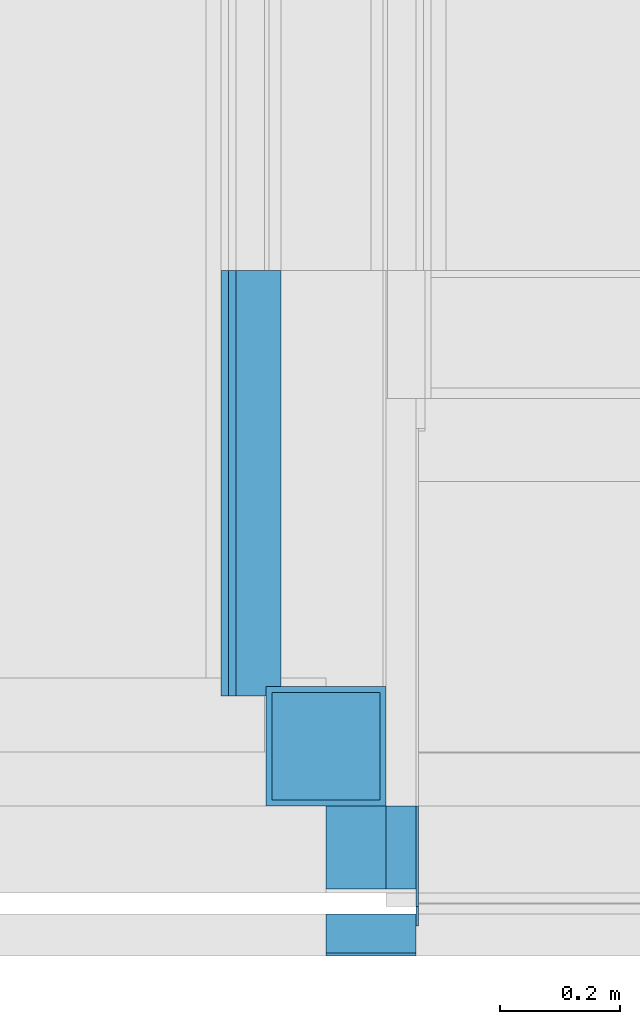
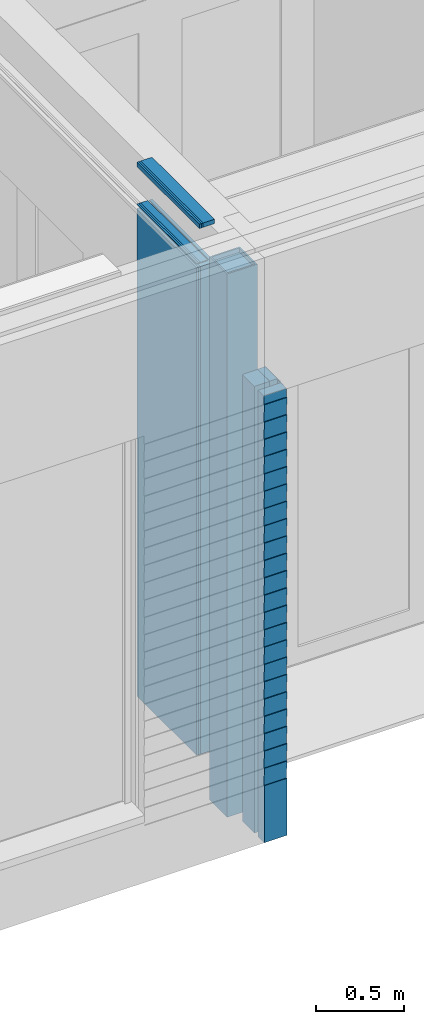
# One storey, part 42 of 165: 9 building element parts, 3 elements without a shape of their own.
"""IFC2X3 building model written with IfcOpenShell, lengths in millimetres."""

from ifc_helpers import new_model, entity, si_unit, converted_unit, derived_unit, money_unit, direction, frame, origin_with_axes, place, context, subcontext, project, spatial, faceted_brep, material, type_object, element, aggregate, save


model = new_model("IFC2X3")

# Units and contexts
model_context = context("Model", 3, precision=0.01, world=origin_with_axes(), true_north=direction((0.0, 1.0)))
body_context = subcontext(model_context, "Body", "Model", "MODEL_VIEW")
ifc_project = project(units=[si_unit("LENGTHUNIT", "METRE", prefix="MILLI"), si_unit("AREAUNIT", "SQUARE_METRE"), si_unit("VOLUMEUNIT", "CUBIC_METRE"), converted_unit("PLANEANGLEUNIT", "DEGREE", entity("IfcPlaneAngleMeasure", 0.0174532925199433), si_unit("PLANEANGLEUNIT", "RADIAN"), dimensions=[0, 0, 0, 0, 0, 0, 0]), money_unit("EUR"), converted_unit("TIMEUNIT", "Year", entity("IfcTimeMeasure", 31556926.0), si_unit("TIMEUNIT", "SECOND"), dimensions=[0, 0, 1, 0, 0, 0, 0]), si_unit("MASSUNIT", "GRAM", prefix="KILO"), si_unit("THERMODYNAMICTEMPERATUREUNIT", "DEGREE_CELSIUS"), si_unit("LUMINOUSINTENSITYUNIT", "LUMEN"), si_unit("ENERGYUNIT", "JOULE", prefix="MEGA"), derived_unit("THERMALCONDUCTANCEUNIT", [(si_unit("POWERUNIT", "WATT"), 1), (si_unit("LENGTHUNIT", "METRE"), -1), (si_unit("THERMODYNAMICTEMPERATUREUNIT", "KELVIN"), -1)]), derived_unit("SPECIFICHEATCAPACITYUNIT", [(si_unit("ENERGYUNIT", "JOULE"), 1), (si_unit("MASSUNIT", "GRAM", prefix="KILO"), -1), (si_unit("THERMODYNAMICTEMPERATUREUNIT", "KELVIN"), -1)]), derived_unit("MASSDENSITYUNIT", [(si_unit("MASSUNIT", "GRAM", prefix="KILO"), 1), (si_unit("VOLUMEUNIT", "CUBIC_METRE"), -1)])], contexts=[model_context])

# Site, building, storey
site_placement = place(None, origin_with_axes())
site = spatial("IfcSite", under=ifc_project, at=site_placement, Name="Site", CompositionType="ELEMENT")
building_placement = place(site_placement, origin_with_axes())
building = spatial("IfcBuilding", under=site, at=building_placement, Name="Naam gebouw", CompositionType="ELEMENT")
storey_placement = place(building_placement, origin_with_axes())
storey = spatial("IfcBuildingStorey", under=building, at=storey_placement, Name="Begane grond", CompositionType="ELEMENT", Elevation=0.0)

# Column, building element parts
column_type_1 = type_object("IfcColumnType", Name="200X200X10 200 x 200", PredefinedType="COLUMN")
column_1_placement = place(storey_placement, frame((8850.0, 99.99999999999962, -425.0000000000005), z_axis=(0.0, 0.0, 1.0), x_axis=(1.0, 0.0, 0.0)))
column_1 = element("IfcColumn", 1, at=column_1_placement, inside=storey, type_object=column_type_1, Name="28_Kolom-x", ObjectType="COLUMN")
ifc_material_1 = material(Name="Beton gewapend C")
building_element_part_1_placement = place(column_1_placement, origin_with_axes())
building_element_part_1 = element("IfcBuildingElementPart", 2, at=building_element_part_1_placement, material=ifc_material_1, Name="Beton gewapend C", context=body_context, shape_type="Brep", body=[
    faceted_brep([(-89.99999999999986, 89.99999999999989, 3705.000002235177), (89.99999999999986, 89.99999999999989, 3705.000002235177), (89.99999999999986, 89.99999999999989, 0.0), (-89.99999999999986, 89.99999999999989, 0.0), (89.99999999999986, -90.00000000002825, 3705.000002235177), (-89.99999999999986, -90.00000000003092, 3705.000002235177), (89.99999999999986, -89.99999999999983, 0.0), (-89.99999999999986, -89.99999999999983, 0.0)], [[[0, 1, 2, 3]], [[4, 1, 0, 5]], [[1, 4, 6, 2]], [[2, 6, 7, 3]], [[5, 0, 3, 7]], [[4, 5, 7, 6]]]),
    faceted_brep([(89.99999999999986, -90.00000000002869, 3730.000002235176), (89.99999999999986, 89.99999999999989, 3730.000002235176), (89.99999999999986, 89.99999999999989, 3735.000000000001), (90.00000000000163, -10.00000000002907, 3735.0), (89.99999999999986, -90.00000000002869, 3735.000000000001), (-89.99999999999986, 89.99999999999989, 3730.000002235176), (-89.99999999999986, -90.00000000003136, 3730.000002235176), (-89.99999999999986, 89.99999999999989, 3735.000000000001), (-89.99999999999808, -10.00000000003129, 3735.0), (-89.99999999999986, -90.00000000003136, 3735.000000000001)], [[[0, 1, 2, 3, 4]], [[5, 1, 0, 6]], [[1, 5, 7, 2]], [[8, 9, 4, 3, 2, 7]], [[6, 0, 4, 9]], [[5, 6, 9, 8, 7]]]),
])
ifc_material_2 = material(Name="Metaal - Staal C")
building_element_part_2_placement = place(column_1_placement, origin_with_axes())
building_element_part_2 = element("IfcBuildingElementPart", 3, at=building_element_part_2_placement, material=ifc_material_2, Name="Metaal - Staal C", context=body_context, shape_type="Brep", body=[
    faceted_brep([(-99.99999999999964, -100.0, 0.0), (99.99999999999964, -100.0, 0.0), (99.99999999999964, -100.0, 3765.000002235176), (-99.99999999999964, -100.0, 3765.000002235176), (-99.99999999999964, 100.0, 0.0), (99.99999999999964, 100.0, 0.0), (-89.99999999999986, -90.00000000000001, 0.0), (89.99999999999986, -90.00000000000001, 0.0), (89.99999999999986, 90.0, 0.0), (-89.99999999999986, 90.0, 0.0), (99.99999999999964, 100.0, 3765.000002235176), (-99.99999999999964, 100.0, 3765.000002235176), (-89.99999999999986, -90.00000000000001, 3765.000002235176), (-89.99999999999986, 90.0, 3765.000002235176), (89.99999999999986, 90.0, 3765.000002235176), (89.99999999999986, -90.00000000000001, 3765.000002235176)], [[[0, 1, 2, 3]], [[0, 4, 5, 1], [6, 7, 8, 9]], [[1, 5, 10, 2]], [[3, 2, 10, 11], [12, 13, 14, 15]], [[4, 0, 3, 11]], [[5, 4, 11, 10]], [[7, 6, 12, 15]], [[8, 7, 15, 14]], [[9, 8, 14, 13]], [[6, 9, 13, 12]]]),
])
aggregate(column_1, [building_element_part_1, building_element_part_2])

# Proxy, building element parts
building_element_proxy_type = type_object("IfcBuildingElementProxyType", Name="22 Metal stud 100 voorzetwand 100", PredefinedType="NOTDEFINED")
proxy_placement = place(storey_placement, frame((8675.0, 893.9999999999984, -100.0), z_axis=(0.0, 0.0, 1.0), x_axis=(0.0, -1.0, 0.0)))
proxy = element("IfcBuildingElementProxy", 4, at=proxy_placement, inside=storey, type_object=building_element_proxy_type, Name="_Wand-x")
ifc_material_3 = material(Name="ALG - LICHTE SCHEIDINGSWAND")
building_element_part_3_placement = place(proxy_placement, origin_with_axes())
building_element_part_3 = element("IfcBuildingElementPart", 5, at=building_element_part_3_placement, material=ifc_material_3, Name="ALG - LICHTE SCHEIDINGSWAND", context=body_context, shape_type="Brep", body=[
    faceted_brep([(679.9999999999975, 72.00000000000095, 3410.0), (0.0, 72.00000000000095, 3410.0), (0.0, 25.00000000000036, 3410.0), (679.9999999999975, 25.00000000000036, 3410.0), (0.0, 72.00000000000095, 3405.000002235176), (679.9999999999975, 72.00000000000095, 3405.000002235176), (0.0, 25.00000000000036, 3405.000002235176), (679.9999999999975, 25.00000000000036, 3405.000002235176)], [[[0, 1, 2, 3]], [[4, 1, 0, 5]], [[4, 6, 2, 1]], [[6, 7, 3, 2]], [[5, 0, 3, 7]], [[6, 4, 5, 7]]]),
    faceted_brep([(709.9999999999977, 99.99999999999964, 3670.0), (0.0, 99.99999999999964, 3670.0), (0.0, 99.99999999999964, 3700.0), (709.9999999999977, 99.99999999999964, 3700.0), (0.0, 25.00000000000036, 3670.0), (709.9999999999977, 24.99999999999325, 3670.0), (0.0, 25.00000000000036, 3700.0), (709.9999999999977, 25.00000000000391, 3700.0)], [[[0, 1, 2, 3]], [[4, 1, 0, 5]], [[2, 1, 4, 6]], [[2, 6, 7, 3]], [[7, 5, 0, 3]], [[6, 4, 5, 7]]]),
    faceted_brep([(0.0, 25.00000000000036, 3380.000002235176), (0.0, 99.99999999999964, 3380.000002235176), (0.0, 99.99999999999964, 0.0), (0.0, 25.00000000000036, 0.0), (679.9999999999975, 99.99999999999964, 3380.000002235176), (679.9999999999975, 25.00000000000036, 3380.000002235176), (679.999999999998, 99.99999999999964, 0.0), (679.999999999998, 25.00000000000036, 0.0)], [[[0, 1, 2, 3]], [[4, 1, 0, 5]], [[1, 4, 6, 2]], [[3, 2, 6, 7]], [[5, 0, 3, 7]], [[4, 5, 7, 6]]]),
    faceted_brep([(679.9999999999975, 99.99999999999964, 3405.000002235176), (0.0, 99.99999999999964, 3405.000002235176), (0.0, 99.99999999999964, 3410.0), (679.9999999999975, 99.99999999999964, 3410.0), (0.0, 80.00000000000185, 3405.000002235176), (679.9999999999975, 80.00000000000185, 3405.000002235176), (0.0, 80.00000000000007, 3410.0), (679.9999999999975, 80.00000000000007, 3410.0)], [[[0, 1, 2, 3]], [[4, 1, 0, 5]], [[4, 6, 2, 1]], [[6, 7, 3, 2]], [[5, 0, 3, 7]], [[7, 6, 4, 5]]]),
])
ifc_material_4 = material(Name="Gipsplaat")
building_element_part_4_placement = place(proxy_placement, origin_with_axes())
building_element_part_4 = element("IfcBuildingElementPart", 6, at=building_element_part_4_placement, material=ifc_material_4, Name="Gipsplaat", context=body_context, shape_type="Brep", body=[
    faceted_brep([(0.0, 12.50000000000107, 3380.000002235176), (0.0, 25.00000000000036, 3380.000002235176), (0.0, 25.00000000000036, 0.0), (0.0, 12.49999999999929, 0.0), (679.9999999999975, 25.00000000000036, 3380.000002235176), (679.9999999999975, 12.49999999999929, 3380.000002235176), (679.999999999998, 25.00000000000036, 0.0), (679.999999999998, 12.49999999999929, 0.0)], [[[0, 1, 2, 3]], [[4, 1, 0, 5]], [[1, 4, 6, 2]], [[3, 2, 6, 7]], [[5, 0, 3, 7]], [[4, 5, 7, 6]]]),
    faceted_brep([(709.9999999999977, 25.00000000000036, 3670.0), (0.0, 25.00000000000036, 3670.0), (0.0, 25.00000000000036, 3700.0), (709.9999999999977, 25.00000000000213, 3700.0), (0.0, 12.50000000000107, 3670.0), (709.9999999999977, 12.49999999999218, 3670.0), (0.0, 12.50000000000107, 3700.0), (709.9999999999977, 12.50000000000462, 3700.0)], [[[0, 1, 2, 3]], [[4, 1, 0, 5]], [[2, 1, 4, 6]], [[2, 6, 7, 3]], [[7, 5, 0, 3]], [[6, 4, 5, 7]]]),
    faceted_brep([(679.9999999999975, 25.00000000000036, 3405.000002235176), (0.0, 25.00000000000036, 3405.000002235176), (0.0, 25.00000000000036, 3410.0), (679.9999999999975, 25.00000000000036, 3410.0), (0.0, 12.50000000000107, 3405.000002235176), (679.9999999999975, 12.49999999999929, 3405.000002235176), (0.0, 12.50000000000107, 3410.0), (679.9999999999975, 12.49999999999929, 3410.0)], [[[0, 1, 2, 3]], [[4, 1, 0, 5]], [[1, 4, 6, 2]], [[7, 3, 2, 6]], [[5, 0, 3, 7]], [[4, 5, 7, 6]]]),
])
building_element_part_5_placement = place(proxy_placement, origin_with_axes())
building_element_part_5 = element("IfcBuildingElementPart", 7, at=building_element_part_5_placement, material=ifc_material_4, Name="Gipsplaat", context=body_context, shape_type="Brep", body=[
    faceted_brep([(0.0, 0.0, 3380.000002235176), (0.0, 12.50000000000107, 3380.000002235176), (0.0, 12.49999999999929, 0.0), (0.0, 0.0, 0.0), (679.9999999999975, 12.49999999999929, 3380.000002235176), (679.9999999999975, 0.0, 3380.000002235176), (679.999999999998, 12.49999999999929, 0.0), (679.999999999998, 0.0, 0.0)], [[[0, 1, 2, 3]], [[4, 1, 0, 5]], [[1, 4, 6, 2]], [[3, 2, 6, 7]], [[5, 0, 3, 7]], [[4, 5, 7, 6]]]),
    faceted_brep([(709.9999999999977, 12.49999999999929, 3670.0), (0.0, 12.50000000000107, 3670.0), (0.0, 12.50000000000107, 3700.0), (709.9999999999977, 12.50000000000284, 3700.0), (0.0, 0.0, 3670.0), (709.9999999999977, 0.0, 3670.0), (0.0, 0.0, 3700.0), (709.9999999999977, 0.0, 3700.0)], [[[0, 1, 2, 3]], [[4, 1, 0, 5]], [[2, 1, 4, 6]], [[2, 6, 7, 3]], [[7, 5, 0, 3]], [[6, 4, 5, 7]]]),
    faceted_brep([(679.9999999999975, 12.49999999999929, 3405.000002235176), (0.0, 12.50000000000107, 3405.000002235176), (0.0, 12.50000000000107, 3410.0), (679.9999999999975, 12.49999999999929, 3410.0), (0.0, 0.0, 3405.000002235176), (679.9999999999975, 0.0, 3405.000002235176), (0.0, 0.0, 3410.0), (679.9999999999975, 0.0, 3410.0)], [[[0, 1, 2, 3]], [[4, 1, 0, 5]], [[1, 4, 6, 2]], [[7, 3, 2, 6]], [[5, 0, 3, 7]], [[4, 5, 7, 6]]]),
])
aggregate(proxy, [building_element_part_3, building_element_part_4, building_element_part_5])

# Column, building element parts
column_type_2 = type_object("IfcColumnType", Name="21 Hoekaansluiting staalplaat 154 x 250", PredefinedType="COLUMN")
column_2_placement = place(storey_placement, frame((8950.0, 0.0, -484.9999999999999), z_axis=(0.0, 0.0, 1.0), x_axis=(1.0, 0.0, 0.0)))
column_2 = element("IfcColumn", 8, at=column_2_placement, inside=storey, type_object=column_type_2, Name="28_Kolom-x", ObjectType="COLUMN")
ifc_material_5 = material(Name="Steen - Baksteen")
building_element_part_6_placement = place(column_2_placement, origin_with_axes())
building_element_part_6 = element("IfcBuildingElementPart", 9, at=building_element_part_6_placement, material=ifc_material_5, Name="Steen - Baksteen", context=body_context, shape_type="Brep", body=[
    faceted_brep([(50.00000000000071, -245.0000227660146, 3035.000036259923), (50.00000000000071, -250.0000000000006, 3035.000036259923), (50.00000000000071, -250.0000000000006, 2984.999978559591), (50.00000000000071, -245.0000227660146, 2984.999978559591), (50.00000000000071, -245.0000227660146, 2914.999970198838), (50.00000000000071, -250.0000000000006, 2914.999970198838), (50.00000000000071, -250.0000000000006, 2864.999992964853), (50.00000000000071, -245.0000227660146, 2864.999992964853), (50.00000000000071, -245.0000227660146, 2795.000024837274), (50.00000000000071, -250.0000000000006, 2795.000024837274), (50.00000000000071, -250.0000000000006, 2744.999967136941), (50.00000000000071, -245.0000227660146, 2744.999967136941), (50.00000000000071, -245.0000227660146, 2674.999999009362), (50.00000000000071, -250.0000000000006, 2674.999999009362), (50.00000000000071, -250.0000000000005, 2625.000021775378), (50.00000000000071, -245.0000227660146, 2625.000021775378), (50.00000000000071, -245.0000227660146, 2555.000013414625), (50.00000000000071, -250.0000000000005, 2555.000013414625), (50.00000000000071, -250.0000000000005, 2504.999995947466), (50.00000000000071, -245.0000227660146, 2504.999995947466), (50.00000000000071, -245.0000227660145, 2434.999987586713), (50.00000000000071, -250.0000000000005, 2434.999987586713), (50.00000000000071, -250.0000000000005, 2385.000010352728), (50.00000000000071, -245.0000227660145, 2385.000010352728), (50.00000000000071, -245.0000227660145, 2315.000001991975), (50.00000000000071, -250.0000000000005, 2315.000001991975), (50.00000000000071, -250.0000000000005, 2264.999944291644), (50.00000000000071, -245.0000227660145, 2264.999944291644), (50.00000000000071, -245.0000227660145, 2194.999976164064), (50.00000000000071, -250.0000000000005, 2194.999976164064), (50.00000000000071, -250.0000000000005, 2144.99999893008), (50.00000000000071, -245.0000227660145, 2144.99999893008), (50.00000000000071, -245.0000227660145, 2075.0000308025), (50.00000000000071, -250.0000000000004, 2075.0000308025), (50.00000000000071, -250.0000000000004, 2024.999973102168), (50.00000000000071, -245.0000227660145, 2024.999973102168), (50.00000000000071, -245.0000227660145, 1954.999964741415), (50.00000000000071, -250.0000000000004, 1954.999964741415), (50.00000000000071, -250.0000000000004, 1905.000027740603), (50.00000000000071, -245.0000227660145, 1905.000027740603), (50.00000000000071, -245.0000227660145, 1835.000019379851), (50.00000000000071, -250.0000000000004, 1835.000019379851), (50.00000000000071, -250.0000000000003, 1784.999961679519), (50.00000000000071, -245.0000227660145, 1784.999961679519), (50.00000000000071, -245.0000227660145, 1714.999993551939), (50.00000000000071, -250.0000000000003, 1714.999993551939), (50.00000000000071, -250.0000000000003, 1664.999976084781), (50.00000000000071, -245.0000227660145, 1664.999976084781), (50.00000000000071, -245.0000227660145, 1595.000007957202), (50.00000000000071, -250.0000000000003, 1595.000007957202), (50.00000000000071, -250.0000000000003, 1544.99995025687), (50.00000000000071, -245.0000227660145, 1544.99995025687), (50.00000000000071, -245.0000227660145, 1474.999982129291), (50.00000000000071, -250.0000000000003, 1474.999982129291), (50.00000000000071, -250.0000000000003, 1425.000004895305), (50.00000000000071, -245.0000227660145, 1425.000004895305), (50.00000000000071, -245.0000227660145, 1354.999996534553), (50.00000000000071, -250.0000000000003, 1354.999996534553), (50.00000000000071, -250.0000000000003, 1304.999979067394), (50.00000000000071, -245.0000227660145, 1304.999979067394), (50.00000000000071, -245.0000227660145, 1234.999970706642), (50.00000000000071, -250.0000000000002, 1234.999970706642), (50.00000000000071, -250.0000000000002, 1184.999993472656), (50.00000000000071, -245.0000227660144, 1184.999993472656), (50.00000000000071, -245.0000227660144, 1115.000025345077), (50.00000000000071, -250.0000000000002, 1115.000025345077), (50.00000000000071, -250.0000000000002, 1064.999927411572), (50.00000000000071, -245.0000227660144, 1064.999927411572), (50.00000000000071, -245.0000227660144, 994.9999995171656), (50.00000000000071, -250.0000000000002, 994.9999995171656), (50.00000000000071, -250.0000000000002, 945.0000222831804), (50.00000000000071, -245.0000227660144, 945.0000222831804), (50.00000000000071, -245.0000227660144, 875.0000139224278), (50.00000000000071, -250.0000000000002, 875.0000139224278), (50.00000000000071, -250.0000000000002, 824.999956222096), (50.00000000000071, -245.0000227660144, 824.999956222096), (50.00000000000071, -245.0000227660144, 754.9999478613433), (50.00000000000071, -250.0000000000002, 754.9999478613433), (50.00000000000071, -250.0000000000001, 705.0000108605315), (50.00000000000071, -245.0000227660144, 705.0000108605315), (50.00000000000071, -245.0000227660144, 635.0000427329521), (50.00000000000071, -250.0000000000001, 635.0000427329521), (50.00000000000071, -250.0000000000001, 584.9999447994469), (50.00000000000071, -245.0000227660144, 584.9999447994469), (50.00000000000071, -245.0000227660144, 514.9999766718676), (50.00000000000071, -250.0000000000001, 514.9999766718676), (50.00000000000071, -250.0000000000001, 465.0000396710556), (50.00000000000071, -245.0000227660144, 465.0000396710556), (50.00000000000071, -245.0000227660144, 395.000031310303), (50.00000000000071, -250.0000000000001, 395.000031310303), (50.00000000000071, -250.0, 0.0), (50.00000000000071, -200.0, 0.0), (50.00000000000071, -200.0, 3095.0), (50.00000000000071, -245.0000227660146, 3095.000008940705), (-99.99999999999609, -245.0000227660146, 3035.000036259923), (-99.99999999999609, -250.0000000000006, 3035.000036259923), (-99.99999999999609, -250.0000000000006, 2984.999978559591), (-99.99999999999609, -245.0000227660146, 2984.999978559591), (-99.99999999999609, -245.0000227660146, 2914.999970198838), (-99.99999999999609, -250.0000000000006, 2914.999970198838), (-99.99999999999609, -250.0000000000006, 2864.999992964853), (-99.99999999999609, -245.0000227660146, 2864.999992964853), (-99.99999999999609, -245.0000227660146, 2795.000024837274), (-99.99999999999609, -250.0000000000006, 2795.000024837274), (-99.99999999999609, -250.0000000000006, 2744.999967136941), (-99.99999999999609, -245.0000227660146, 2744.999967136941), (-99.99999999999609, -245.0000227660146, 2674.999999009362), (-99.99999999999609, -250.0000000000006, 2674.999999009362), (-99.99999999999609, -250.0000000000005, 2625.000021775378), (-99.99999999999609, -245.0000227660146, 2625.000021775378), (-99.99999999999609, -245.0000227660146, 2555.000013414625), (-99.99999999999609, -250.0000000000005, 2555.000013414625), (-99.99999999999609, -250.0000000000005, 2504.999995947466), (-99.99999999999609, -245.0000227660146, 2504.999995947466), (-99.99999999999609, -245.0000227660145, 2434.999987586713), (-99.99999999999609, -250.0000000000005, 2434.999987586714), (-99.99999999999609, -250.0000000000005, 2385.000010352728), (-99.99999999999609, -245.0000227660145, 2385.000010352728), (-99.99999999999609, -245.0000227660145, 2315.000001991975), (-99.99999999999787, -250.0000000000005, 2315.000001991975), (-99.99999999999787, -250.0000000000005, 2264.999944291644), (-99.99999999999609, -245.0000227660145, 2264.999944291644), (-99.99999999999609, -245.0000227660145, 2194.999976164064), (-99.99999999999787, -250.0000000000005, 2194.999976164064), (-99.99999999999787, -250.0000000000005, 2144.999998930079), (-99.99999999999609, -245.0000227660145, 2144.99999893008), (-99.99999999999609, -245.0000227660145, 2075.0000308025), (-99.99999999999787, -250.0000000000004, 2075.0000308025), (-99.99999999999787, -250.0000000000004, 2024.999973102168), (-99.99999999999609, -245.0000227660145, 2024.999973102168), (-99.99999999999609, -245.0000227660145, 1954.999964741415), (-99.99999999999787, -250.0000000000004, 1954.999964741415), (-99.99999999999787, -250.0000000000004, 1905.000027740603), (-99.99999999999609, -245.0000227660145, 1905.000027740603), (-99.99999999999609, -245.0000227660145, 1835.000019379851), (-99.99999999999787, -250.0000000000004, 1835.000019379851), (-99.99999999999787, -250.0000000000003, 1784.999961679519), (-99.99999999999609, -245.0000227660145, 1784.999961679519), (-99.99999999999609, -245.0000227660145, 1714.999993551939), (-99.99999999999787, -250.0000000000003, 1714.99999355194), (-99.99999999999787, -250.0000000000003, 1664.999976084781), (-99.99999999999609, -245.0000227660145, 1664.999976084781), (-99.99999999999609, -245.0000227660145, 1595.000007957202), (-99.99999999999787, -250.0000000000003, 1595.000007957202), (-99.99999999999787, -250.0000000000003, 1544.99995025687), (-99.99999999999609, -245.0000227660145, 1544.99995025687), (-99.99999999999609, -245.0000227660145, 1474.999982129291), (-99.99999999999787, -250.0000000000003, 1474.999982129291), (-99.99999999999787, -250.0000000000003, 1425.000004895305), (-99.99999999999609, -245.0000227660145, 1425.000004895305), (-99.99999999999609, -245.0000227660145, 1354.999996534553), (-99.99999999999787, -250.0000000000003, 1354.999996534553), (-99.99999999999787, -250.0000000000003, 1304.999979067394), (-99.99999999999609, -245.0000227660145, 1304.999979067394), (-99.99999999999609, -245.0000227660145, 1234.999970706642), (-99.99999999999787, -250.0000000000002, 1234.999970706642), (-99.99999999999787, -250.0000000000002, 1184.999993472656), (-99.99999999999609, -245.0000227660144, 1184.999993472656), (-99.99999999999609, -245.0000227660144, 1115.000025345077), (-99.99999999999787, -250.0000000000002, 1115.000025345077), (-99.99999999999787, -250.0000000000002, 1064.999927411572), (-99.99999999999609, -245.0000227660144, 1064.999927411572), (-99.99999999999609, -245.0000227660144, 994.9999995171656), (-99.99999999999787, -250.0000000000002, 994.9999995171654), (-99.99999999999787, -250.0000000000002, 945.0000222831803), (-99.99999999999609, -245.0000227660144, 945.0000222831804), (-99.99999999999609, -245.0000227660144, 875.0000139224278), (-99.99999999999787, -250.0000000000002, 875.0000139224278), (-99.99999999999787, -250.0000000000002, 824.9999562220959), (-99.99999999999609, -245.0000227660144, 824.999956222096), (-99.99999999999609, -245.0000227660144, 754.9999478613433), (-99.99999999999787, -250.0000000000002, 754.9999478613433), (-99.99999999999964, -250.0000000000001, 705.0000108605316), (-99.99999999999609, -245.0000227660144, 705.0000108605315), (-99.99999999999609, -245.0000227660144, 635.0000427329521), (-99.99999999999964, -250.0000000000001, 635.0000427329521), (-99.99999999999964, -250.0000000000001, 584.9999447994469), (-99.99999999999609, -245.0000227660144, 584.9999447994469), (-99.99999999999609, -245.0000227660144, 514.9999766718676), (-99.99999999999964, -250.0000000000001, 514.9999766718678), (-99.99999999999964, -250.0000000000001, 465.0000396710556), (-99.99999999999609, -245.0000227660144, 465.0000396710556), (-99.99999999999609, -245.0000227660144, 395.000031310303), (-99.99999999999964, -250.0000000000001, 395.000031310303), (-99.99999999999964, -250.0, 0.0), (-99.99999999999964, -180.0, 0.0), (50.00000000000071, -180.0, 0.0), (50.00000000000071, -180.0000000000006, 3095.0), (-99.99999999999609, -245.0000227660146, 3095.000008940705), (-99.99999999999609, -180.0000000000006, 3095.0)], [[[0, 1, 2, 3, 4, 5, 6, 7, 8, 9, 10, 11, 12, 13, 14, 15, 16, 17, 18, 19, 20, 21, 22, 23, 24, 25, 26, 27, 28, 29, 30, 31, 32, 33, 34, 35, 36, 37, 38, 39, 40, 41, 42, 43, 44, 45, 46, 47, 48, 49, 50, 51, 52, 53, 54, 55, 56, 57, 58, 59, 60, 61, 62, 63, 64, 65, 66, 67, 68, 69, 70, 71, 72, 73, 74, 75, 76, 77, 78, 79, 80, 81, 82, 83, 84, 85, 86, 87, 88, 89, 90, 91, 92, 93]], [[1, 0, 94, 95]], [[1, 95, 96, 2]], [[3, 2, 96, 97]], [[4, 3, 97, 98]], [[5, 4, 98, 99]], [[5, 99, 100, 6]], [[7, 6, 100, 101]], [[8, 7, 101, 102]], [[9, 8, 102, 103]], [[9, 103, 104, 10]], [[11, 10, 104, 105]], [[12, 11, 105, 106]], [[13, 12, 106, 107]], [[13, 107, 108, 14]], [[15, 14, 108, 109]], [[16, 15, 109, 110]], [[17, 16, 110, 111]], [[17, 111, 112, 18]], [[19, 18, 112, 113]], [[20, 19, 113, 114]], [[21, 20, 114, 115]], [[21, 115, 116, 22]], [[23, 22, 116, 117]], [[24, 23, 117, 118]], [[25, 24, 118, 119]], [[25, 119, 120, 26]], [[27, 26, 120, 121]], [[28, 27, 121, 122]], [[29, 28, 122, 123]], [[29, 123, 124, 30]], [[31, 30, 124, 125]], [[32, 31, 125, 126]], [[33, 32, 126, 127]], [[33, 127, 128, 34]], [[35, 34, 128, 129]], [[36, 35, 129, 130]], [[37, 36, 130, 131]], [[37, 131, 132, 38]], [[39, 38, 132, 133]], [[40, 39, 133, 134]], [[41, 40, 134, 135]], [[41, 135, 136, 42]], [[43, 42, 136, 137]], [[44, 43, 137, 138]], [[45, 44, 138, 139]], [[45, 139, 140, 46]], [[47, 46, 140, 141]], [[48, 47, 141, 142]], [[49, 48, 142, 143]], [[49, 143, 144, 50]], [[51, 50, 144, 145]], [[52, 51, 145, 146]], [[53, 52, 146, 147]], [[53, 147, 148, 54]], [[55, 54, 148, 149]], [[56, 55, 149, 150]], [[57, 56, 150, 151]], [[57, 151, 152, 58]], [[59, 58, 152, 153]], [[60, 59, 153, 154]], [[61, 60, 154, 155]], [[61, 155, 156, 62]], [[63, 62, 156, 157]], [[64, 63, 157, 158]], [[65, 64, 158, 159]], [[65, 159, 160, 66]], [[67, 66, 160, 161]], [[68, 67, 161, 162]], [[69, 68, 162, 163]], [[69, 163, 164, 70]], [[71, 70, 164, 165]], [[72, 71, 165, 166]], [[73, 72, 166, 167]], [[73, 167, 168, 74]], [[75, 74, 168, 169]], [[76, 75, 169, 170]], [[77, 76, 170, 171]], [[77, 171, 172, 78]], [[79, 78, 172, 173]], [[80, 79, 173, 174]], [[81, 80, 174, 175]], [[81, 175, 176, 82]], [[83, 82, 176, 177]], [[84, 83, 177, 178]], [[85, 84, 178, 179]], [[85, 179, 180, 86]], [[87, 86, 180, 181]], [[88, 87, 181, 182]], [[89, 88, 182, 183]], [[89, 183, 184, 90]], [[90, 184, 185, 186, 91]], [[186, 187, 92, 91]], [[188, 93, 92, 187, 189]], [[0, 93, 188, 94]], [[94, 188, 189, 185, 184, 183, 182, 181, 180, 179, 178, 177, 176, 175, 174, 173, 172, 171, 170, 169, 168, 167, 166, 165, 164, 163, 162, 161, 160, 159, 158, 157, 156, 155, 154, 153, 152, 151, 150, 149, 148, 147, 146, 145, 144, 143, 142, 141, 140, 139, 138, 137, 136, 135, 134, 133, 132, 131, 130, 129, 128, 127, 126, 125, 124, 123, 122, 121, 120, 119, 118, 117, 116, 115, 114, 113, 112, 111, 110, 109, 108, 107, 106, 105, 104, 103, 102, 101, 100, 99, 98, 97, 96, 95]], [[185, 189, 187, 186]]]),
])
ifc_material_6 = material(Name="Isolatie - Glaswol zacht")
building_element_part_7_placement = place(column_2_placement, origin_with_axes())
building_element_part_7 = element("IfcBuildingElementPart", 10, at=building_element_part_7_placement, material=ifc_material_6, Name="Isolatie - Glaswol zacht", context=body_context, shape_type="Brep", body=[
    faceted_brep([(-99.99999999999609, 0.0, 3095.0), (0.0, 0.0, 3095.0), (0.0, 0.0, 0.0), (-99.99999999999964, 0.0, 0.0), (0.0, -137.9999843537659, 3095.0), (-99.99999999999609, -138.0, 3095.0), (0.0, -137.9999843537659, 0.0), (-99.99999999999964, -138.0, 0.0)], [[[0, 1, 2, 3]], [[4, 1, 0, 5]], [[1, 4, 6, 2]], [[7, 3, 2, 6]], [[5, 0, 3, 7]], [[4, 5, 7, 6]]]),
])
ifc_material_7 = material(Name="Rockpanel RAL 1001")
building_element_part_8_placement = place(column_2_placement, origin_with_axes())
building_element_part_8 = element("IfcBuildingElementPart", 11, at=building_element_part_8_placement, material=ifc_material_7, Name="Rockpanel RAL 1001", context=body_context, shape_type="Brep", body=[
    faceted_brep([(50.00000000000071, -167.0001676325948, 3096.99999613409), (54.0000007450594, -167.0001676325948, 3096.99999613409), (54.0000007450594, 0.0, 3096.99999613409), (50.00000000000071, 0.0, 3096.99999613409), (50.00000000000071, -137.9999828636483, 3096.99999613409), (54.0000007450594, -167.0001676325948, 3095.0), (50.00000000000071, -167.0001676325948, 3095.0), (54.0000007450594, -72.00016763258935, 3095.0), (54.0000007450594, -72.00016763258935, 3092.0), (54.0000007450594, -200.0, 3092.0), (54.0000007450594, -200.0, 0.0), (54.0000007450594, 0.0, 0.0), (50.00000000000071, 0.0, 0.0), (50.00000000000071, -137.9999828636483, 0.0), (50.00000000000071, -137.9999828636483, 3092.0), (50.00000000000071, -72.00016763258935, 3092.0), (50.00000000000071, -72.00016763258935, 3095.0), (50.00000000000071, -137.9999828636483, 3095.0), (50.00000000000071, -180.0, 3092.0), (50.00000000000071, -200.0, 3092.0), (50.00000000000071, -200.0, 0.0), (50.00000000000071, -180.0, 0.0)], [[[0, 1, 2, 3, 4]], [[5, 1, 0, 6]], [[1, 5, 7, 8, 9, 10, 11, 2]], [[3, 2, 11, 12]], [[13, 14, 15, 16, 17, 4, 3, 12]], [[6, 0, 4, 17]], [[5, 6, 17, 16, 7]], [[15, 8, 7, 16]], [[15, 14, 18, 19, 9, 8]], [[10, 9, 19, 20]], [[11, 10, 20, 21, 13, 12]], [[21, 18, 14, 13]], [[20, 19, 18, 21]]]),
])
building_element_part_9_placement = place(column_2_placement, origin_with_axes())
building_element_part_9 = element("IfcBuildingElementPart", 12, at=building_element_part_9_placement, material=ifc_material_6, Name="Isolatie - Glaswol zacht", context=body_context, shape_type="Brep", body=[
    faceted_brep([(0.0, 0.0, 3096.99999613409), (50.00000000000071, 0.0, 3096.99999613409), (50.00000000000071, 0.0, 0.0), (0.0, 0.0, 0.0), (0.0, -137.9999833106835, 3096.99999613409), (50.00000000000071, -137.9999833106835, 3096.99999613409), (50.00000000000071, -137.9999833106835, 0.0), (0.0, -137.9999833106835, 0.0)], [[[0, 1, 2, 3]], [[4, 5, 1, 0]], [[1, 5, 6, 2]], [[7, 3, 2, 6]], [[4, 0, 3, 7]], [[5, 4, 7, 6]]]),
])
aggregate(column_2, [building_element_part_6, building_element_part_7, building_element_part_8, building_element_part_9])

save(model, "model.ifc")
